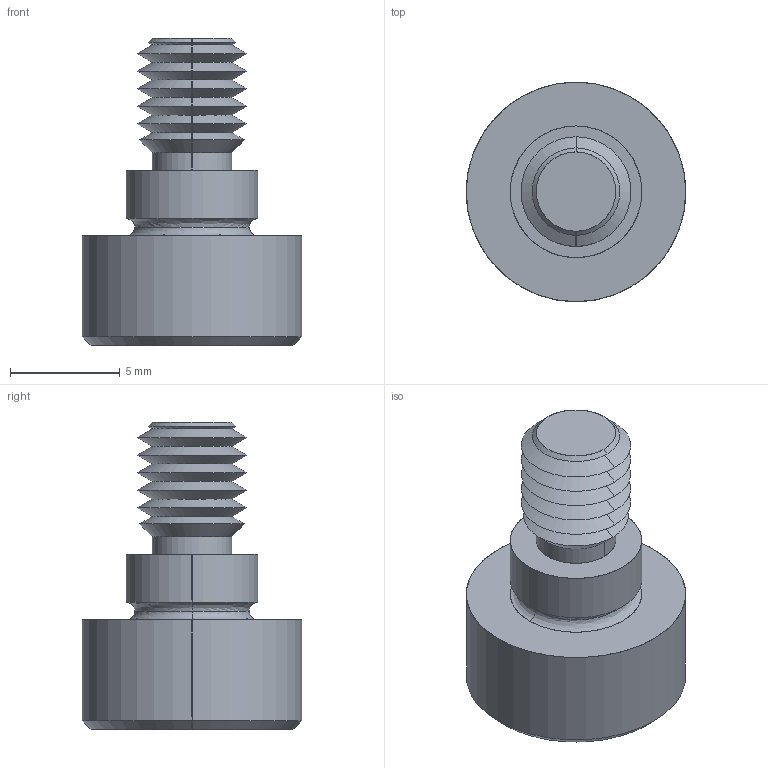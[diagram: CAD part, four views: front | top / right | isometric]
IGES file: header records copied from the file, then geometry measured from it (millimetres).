
Start section: SolidWorks IGES file using analytic representation for surfaces
Global section: file name: C:\Users\IanO\Documents\Temp Folder\GENERAL\SCREW REVISION\P0130_v2\P0130.T5_v2_20220106_IGES\P0130.060-003-T5.igs; native system: SolidWorks 2019; preprocessor: SolidWorks 2019; author: IanO; date: 220106.222004; units: millimetre
Bounding box: 10 x 10 x 14 mm (x, y, z)
Surface area: 544.1 mm2 (no closed solid volume)
Topology: 0 solids, 0 shells, 64 faces, 504 edges, 502 vertices
Faces by surface type: revolution 44, bspline 20
